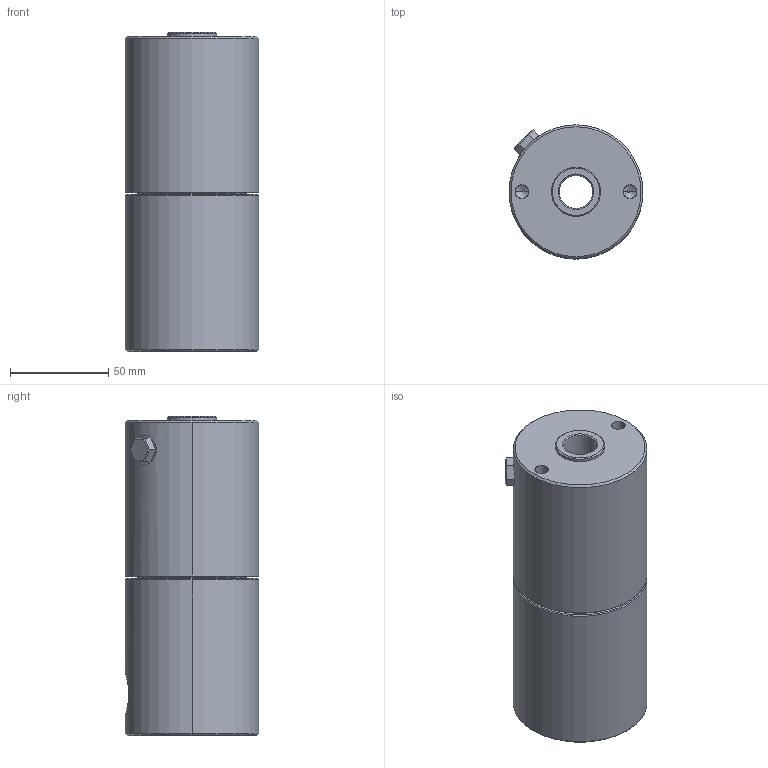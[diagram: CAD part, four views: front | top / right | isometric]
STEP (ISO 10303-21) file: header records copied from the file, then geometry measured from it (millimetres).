
FILE_DESCRIPTION (( 'STEP AP203' ), '1' );
FILE_NAME ('4610-313.STEP', '2016-01-29T10:17:49', ( '' ), ( '' ), 'SwSTEP 2.0', 'SolidWorks 2015', '' );
FILE_SCHEMA (( 'CONFIG_CONTROL_DESIGN' ));
Length unit declared in the file: millimetre
Products named in the file (1): 4610-313
Bounding box: 68 x 68 x 162 mm (x, y, z)
Volume: 539554.4 mm3; surface area: 53947.9 mm2
Topology: 1 solids, 1 shells, 73 faces, 156 edges, 89 vertices
Faces by surface type: cone 26, cylinder 22, plane 21, torus 4
Entity records: 2216 total; most frequent: CARTESIAN_POINT 554, DIRECTION 358, ORIENTED_EDGE 300, EDGE_CURVE 150, AXIS2_PLACEMENT_3D 140, VERTEX_POINT 89, EDGE_LOOP 85, VECTOR 78
